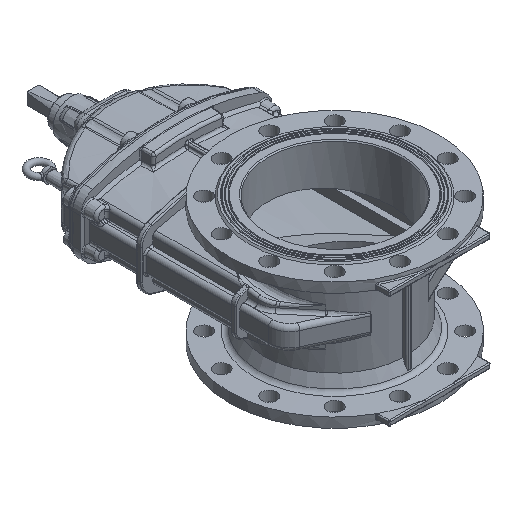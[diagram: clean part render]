
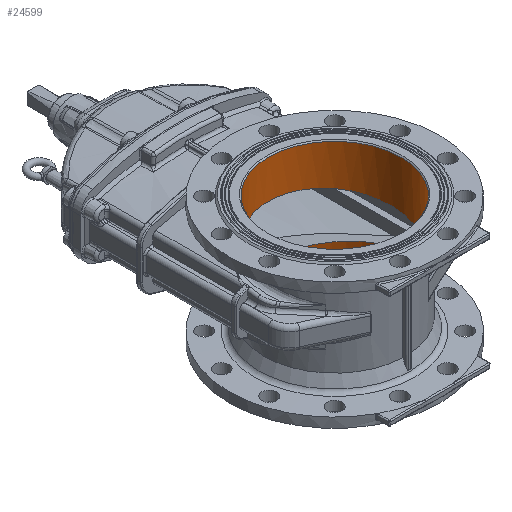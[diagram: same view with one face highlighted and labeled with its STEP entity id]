
A CAD part, isometric view. The second image highlights one B-rep face of the part: STEP entity #24599.
In plain terms, the highlighted cylindrical face has radius 127.5 mm (diameter 255 mm), a full revolution.
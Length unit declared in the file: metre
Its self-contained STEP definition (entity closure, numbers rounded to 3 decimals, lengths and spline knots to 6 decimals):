
#2458=FACE_BOUND('',#7499,.T.);
#3218=LINE('',#98662,#3997);
#3221=LINE('',#98670,#4000);
#3224=LINE('',#98678,#4003);
#3228=LINE('',#98690,#4007);
#3231=LINE('',#98698,#4010);
#3234=LINE('',#98706,#4013);
#3237=LINE('',#98717,#4016);
#3997=VECTOR('',#33627,0.004574);
#4000=VECTOR('',#33636,0.031);
#4003=VECTOR('',#33645,0.004574);
#4007=VECTOR('',#33659,0.008574);
#4010=VECTOR('',#33668,0.023);
#4013=VECTOR('',#33677,0.008574);
#4016=VECTOR('',#33692,0.1275);
#5821=FACE_OUTER_BOUND('',#7498,.T.);
#7498=EDGE_LOOP('',(#22696,#22697,#22698,#22699,#22700));
#7499=EDGE_LOOP('',(#22701,#22702,#22703,#22704,#22705,#22706,#22707,#22708,
#22709,#22710,#22711,#22712));
#9125=CIRCLE('',#27489,0.1275);
#9126=CIRCLE('',#27492,0.1275);
#9127=CIRCLE('',#27495,0.1275);
#9128=CIRCLE('',#27500,0.1275);
#9129=CIRCLE('',#27503,0.1275);
#9130=CIRCLE('',#27508,0.1275);
#9131=CIRCLE('',#27509,0.1275);
#9255=ELLIPSE('',#27497,0.128753,0.1275);
#9256=ELLIPSE('',#27506,0.128753,0.1275);
#11460=VERTEX_POINT('',#98659);
#11461=VERTEX_POINT('',#98661);
#11462=VERTEX_POINT('',#98665);
#11463=VERTEX_POINT('',#98669);
#11464=VERTEX_POINT('',#98673);
#11465=VERTEX_POINT('',#98677);
#11466=VERTEX_POINT('',#98681);
#11467=VERTEX_POINT('',#98685);
#11468=VERTEX_POINT('',#98689);
#11469=VERTEX_POINT('',#98693);
#11470=VERTEX_POINT('',#98697);
#11471=VERTEX_POINT('',#98701);
#11472=VERTEX_POINT('',#98705);
#11473=VERTEX_POINT('',#98711);
#11474=VERTEX_POINT('',#98712);
#15192=EDGE_CURVE('',#11460,#11461,#3218,.T.);
#15194=EDGE_CURVE('',#11461,#11462,#9125,.F.);
#15196=EDGE_CURVE('',#11462,#11463,#3221,.T.);
#15198=EDGE_CURVE('',#11463,#11464,#9126,.T.);
#15200=EDGE_CURVE('',#11464,#11465,#3224,.T.);
#15202=EDGE_CURVE('',#11466,#11466,#9127,.F.);
#15205=EDGE_CURVE('',#11465,#11467,#9255,.F.);
#15206=EDGE_CURVE('',#11467,#11468,#3228,.F.);
#15208=EDGE_CURVE('',#11468,#11469,#9128,.T.);
#15210=EDGE_CURVE('',#11469,#11470,#3231,.F.);
#15212=EDGE_CURVE('',#11470,#11471,#9129,.F.);
#15214=EDGE_CURVE('',#11471,#11472,#3234,.F.);
#15216=EDGE_CURVE('',#11472,#11460,#9256,.F.);
#15217=EDGE_CURVE('',#11473,#11474,#9130,.T.);
#15218=EDGE_CURVE('',#11474,#11473,#9131,.T.);
#15220=EDGE_CURVE('',#11474,#11466,#3237,.T.);
#22696=ORIENTED_EDGE('',*,*,#15217,.F.);
#22697=ORIENTED_EDGE('',*,*,#15218,.F.);
#22698=ORIENTED_EDGE('',*,*,#15220,.T.);
#22699=ORIENTED_EDGE('',*,*,#15202,.F.);
#22700=ORIENTED_EDGE('',*,*,#15220,.F.);
#22701=ORIENTED_EDGE('',*,*,#15205,.F.);
#22702=ORIENTED_EDGE('',*,*,#15200,.F.);
#22703=ORIENTED_EDGE('',*,*,#15198,.F.);
#22704=ORIENTED_EDGE('',*,*,#15196,.F.);
#22705=ORIENTED_EDGE('',*,*,#15194,.F.);
#22706=ORIENTED_EDGE('',*,*,#15192,.F.);
#22707=ORIENTED_EDGE('',*,*,#15216,.F.);
#22708=ORIENTED_EDGE('',*,*,#15214,.F.);
#22709=ORIENTED_EDGE('',*,*,#15212,.F.);
#22710=ORIENTED_EDGE('',*,*,#15210,.F.);
#22711=ORIENTED_EDGE('',*,*,#15208,.F.);
#22712=ORIENTED_EDGE('',*,*,#15206,.F.);
#23026=CYLINDRICAL_SURFACE('',#27510,0.1275);
#24599=ADVANCED_FACE('',(#5821,#2458),#23026,.F.);
#27489=AXIS2_PLACEMENT_3D('',#98666,#33631,#33632);
#27492=AXIS2_PLACEMENT_3D('',#98674,#33640,#33641);
#27495=AXIS2_PLACEMENT_3D('',#98682,#33649,#33650);
#27497=AXIS2_PLACEMENT_3D('',#98687,#33655,#33656);
#27500=AXIS2_PLACEMENT_3D('',#98694,#33663,#33664);
#27503=AXIS2_PLACEMENT_3D('',#98702,#33672,#33673);
#27506=AXIS2_PLACEMENT_3D('',#98709,#33681,#33682);
#27508=AXIS2_PLACEMENT_3D('',#98713,#33685,#33686);
#27509=AXIS2_PLACEMENT_3D('',#98714,#33687,#33688);
#27510=AXIS2_PLACEMENT_3D('',#98716,#33690,#33691);
#33627=DIRECTION('',(1.,0.,0.));
#33631=DIRECTION('center_axis',(1.,0.,0.));
#33632=DIRECTION('ref_axis',(0.,0.,-1.));
#33636=DIRECTION('',(1.,0.,0.));
#33640=DIRECTION('center_axis',(1.,0.,0.));
#33641=DIRECTION('ref_axis',(0.,0.,-1.));
#33645=DIRECTION('',(1.,0.,0.));
#33649=DIRECTION('center_axis',(1.,0.,0.));
#33650=DIRECTION('ref_axis',(0.,0.,-1.));
#33655=DIRECTION('center_axis',(-0.99,0.,-0.139));
#33656=DIRECTION('ref_axis',(0.139,0.,-0.99));
#33659=DIRECTION('',(1.,0.,0.));
#33663=DIRECTION('center_axis',(1.,0.,0.));
#33664=DIRECTION('ref_axis',(0.,0.,-1.));
#33668=DIRECTION('',(1.,0.,0.));
#33672=DIRECTION('center_axis',(1.,0.,0.));
#33673=DIRECTION('ref_axis',(0.,0.,-1.));
#33677=DIRECTION('',(1.,0.,0.));
#33681=DIRECTION('center_axis',(0.99,0.,-0.139));
#33682=DIRECTION('ref_axis',(0.139,0.,0.99));
#33685=DIRECTION('center_axis',(1.,0.,0.));
#33686=DIRECTION('ref_axis',(0.,0.,-1.));
#33687=DIRECTION('center_axis',(1.,0.,0.));
#33688=DIRECTION('ref_axis',(0.,0.,-1.));
#33690=DIRECTION('center_axis',(1.,0.,0.));
#33691=DIRECTION('ref_axis',(0.,0.,-1.));
#33692=DIRECTION('',(1.,0.,0.));
#98659=CARTESIAN_POINT('',(-0.020074,-0.097671,0.081955));
#98661=CARTESIAN_POINT('',(-0.0155,-0.097671,0.081955));
#98662=CARTESIAN_POINT('',(-0.020074,-0.097671,0.081955));
#98665=CARTESIAN_POINT('',(-0.0155,-0.057662,0.113716));
#98666=CARTESIAN_POINT('Origin',(-0.0155,0.,0.));
#98669=CARTESIAN_POINT('',(0.0155,-0.057662,0.113716));
#98670=CARTESIAN_POINT('',(-0.0155,-0.057662,0.113716));
#98673=CARTESIAN_POINT('',(0.0155,-0.097671,0.081955));
#98674=CARTESIAN_POINT('Origin',(0.0155,0.,0.));
#98677=CARTESIAN_POINT('',(0.020074,-0.097671,0.081955));
#98678=CARTESIAN_POINT('',(0.0155,-0.097671,0.081955));
#98681=CARTESIAN_POINT('',(0.123,0.,0.1275));
#98682=CARTESIAN_POINT('Origin',(0.123,0.,0.));
#98685=CARTESIAN_POINT('',(0.020074,0.097671,0.081955));
#98687=CARTESIAN_POINT('Origin',(0.031592,0.,0.));
#98689=CARTESIAN_POINT('',(0.0115,0.097671,0.081955));
#98690=CARTESIAN_POINT('',(0.0115,0.097671,0.081955));
#98693=CARTESIAN_POINT('',(0.0115,0.057662,0.113716));
#98694=CARTESIAN_POINT('Origin',(0.0115,0.,0.));
#98697=CARTESIAN_POINT('',(-0.0115,0.057662,0.113716));
#98698=CARTESIAN_POINT('',(-0.0115,0.057662,0.113716));
#98701=CARTESIAN_POINT('',(-0.0115,0.097671,0.081955));
#98702=CARTESIAN_POINT('Origin',(-0.0115,0.,0.));
#98705=CARTESIAN_POINT('',(-0.020074,0.097671,0.081955));
#98706=CARTESIAN_POINT('',(-0.020074,0.097671,0.081955));
#98709=CARTESIAN_POINT('Origin',(-0.031592,0.,0.));
#98711=CARTESIAN_POINT('',(-0.123,0.,-0.1275));
#98712=CARTESIAN_POINT('',(-0.123,0.,0.1275));
#98713=CARTESIAN_POINT('Origin',(-0.123,0.,0.));
#98714=CARTESIAN_POINT('Origin',(-0.123,0.,0.));
#98716=CARTESIAN_POINT('Origin',(-500.,0.,0.));
#98717=CARTESIAN_POINT('',(-500.,0.,0.1275));
